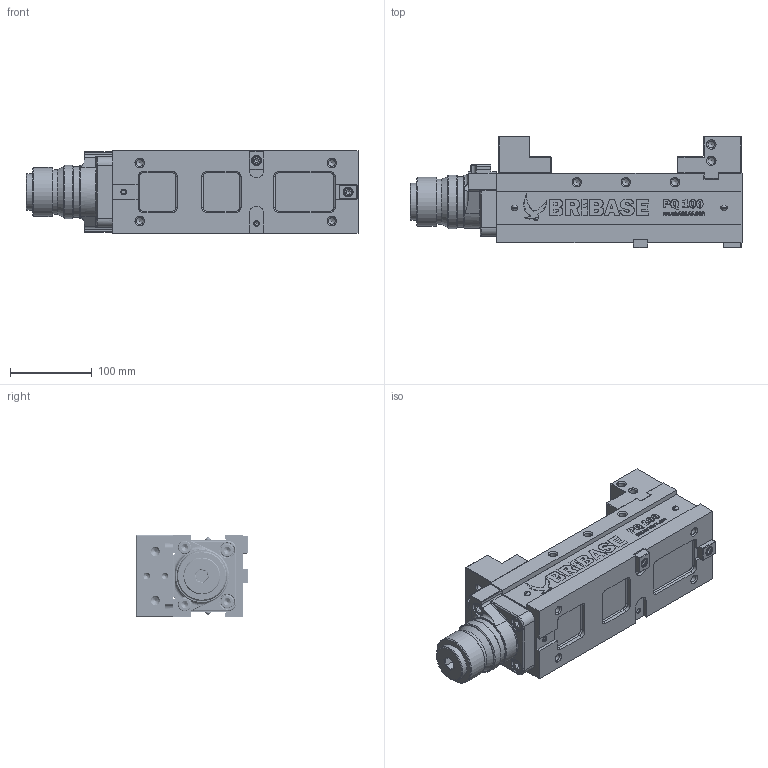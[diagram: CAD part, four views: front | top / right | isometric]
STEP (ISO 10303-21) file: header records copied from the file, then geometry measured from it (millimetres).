
FILE_DESCRIPTION(('STEP AP214'), '1');
FILE_NAME('BB.VS.100.11.002 捘', '', ('UNSPECIFIED'), ('UNSPECIFIED'), 'ASCON STEP Converter 1.6', 'ASCON Math Kernel', '');
FILE_SCHEMA(('AUTOMOTIVE_DESIGN { 1 0 10303 214 3 1 1}'));
Length unit declared in the file: millimetre
Products named in the file (18): BB.VS.100.11.002 捘; BB.VS.100.11.001/001; BB.VS.100.11.002/004; BB.VS.100.11.001/002; BB.VS.100.11.002/003; BB.VS.100.21.030/002; BB.VS.100.82.018; BB.VS.100.21.030/001; Öèëèíäð ñèëîâîé 100; BB.VS.100.11.001/006; BB.VS.100.11.002-099; bribase; BB.VS.100.11.002/008
Assembly tree (32 placements, depth 3):
  BB.VS.100.11.002 捘
    BB.VS.100.11.001/001
    BB.VS.100.11.002/004
    BB.VS.100.11.001/002
    BB.VS.100.11.002/003
    (unnamed)  x6
    BB.VS.100.21.030/002
    (unnamed)  x4
    BB.VS.100.82.018  x2
    (unnamed)  x2
    BB.VS.100.21.030/001
    Öèëèíäð ñèëîâîé 100
    (unnamed)  x2
    BB.VS.100.11.001/006
    BB.VS.100.11.002-099  x2
      bribase
    (unnamed)  x4
    BB.VS.100.11.002/008
Bounding box: 406 x 136 x 101 mm (x, y, z)
Volume: 2695112.2 mm3; surface area: 564731.4 mm2
Topology: 33 solids, 33 shells, 1941 faces, 5972 edges, 4229 vertices
Faces by surface type: plane 1007, cylinder 448, extrusion 248, cone 166, torus 56, bspline 12, sphere 4
Full cylindrical faces by diameter (mm): 3.3 x4, 4 x4, 4.917 x8, 6 x3, 6.5 x1, 6.6 x2, 7 x4, 8.376 x22, 8.5 x8, 10 x14, 11 x14, 16 x12, 18 x12, 21 x1, 25 x2, 26 x1, 42 x4, 44.5 x1, 45 x1, 47 x1, 55 x1, 60 x1, 61 x2, 62 x1, 65.5 x1
Entity records: 181423 total; most frequent: CARTESIAN_POINT 132491, ORIENTED_EDGE 8830, DIRECTION 5366, EDGE_CURVE 4415, VERTEX_POINT 3359, B_SPLINE_CURVE_WITH_KNOTS 2379, AXIS2_PLACEMENT_3D 1811, EDGE_LOOP 1768
